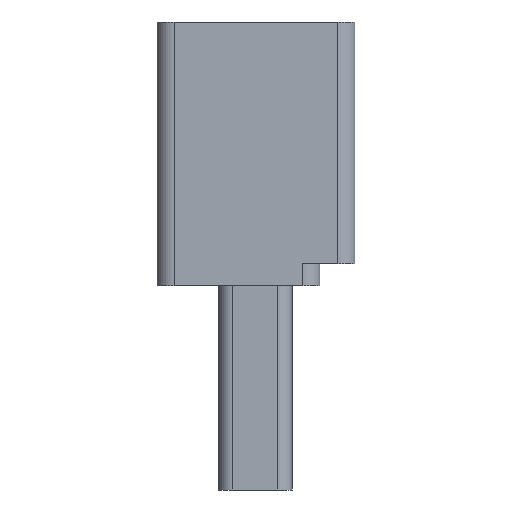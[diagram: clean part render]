
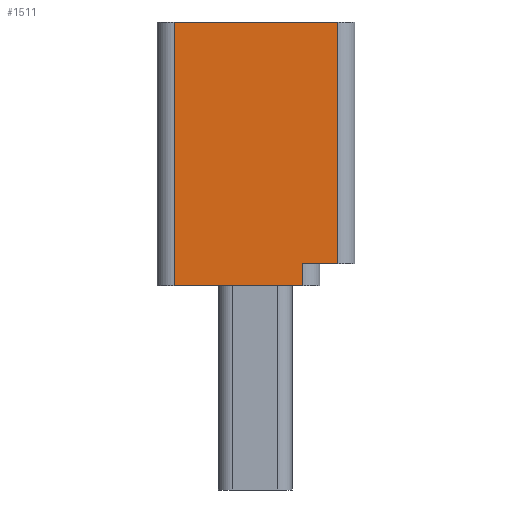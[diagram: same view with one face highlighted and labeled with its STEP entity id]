
A CAD part, left-side view. The second image highlights one B-rep face of the part: STEP entity #1511.
In plain terms, the highlighted planar face has unit normal (-1, 0, 0).
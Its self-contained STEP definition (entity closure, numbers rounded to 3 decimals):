
#1 = CARTESIAN_POINT ( 'NONE',  ( -7.475, -5.6, -1.5 ) ) ;
#142 = VECTOR ( 'NONE', #1923, 1000. ) ;
#191 = LINE ( 'NONE', #2463, #648 ) ;
#215 = CARTESIAN_POINT ( 'NONE',  ( -7.475, 4.6, -1.5 ) ) ;
#331 = CARTESIAN_POINT ( 'NONE',  ( -7.475, -4.4, -3.45 ) ) ;
#365 = CARTESIAN_POINT ( 'NONE',  ( -7.475, -6.85, -1.5 ) ) ;
#370 = EDGE_CURVE ( 'NONE', #2394, #540, #815, .T. ) ;
#388 = ORIENTED_EDGE ( 'NONE', *, *, #579, .T. ) ;
#407 = EDGE_CURVE ( 'NONE', #2394, #819, #1637, .T. ) ;
#483 = ORIENTED_EDGE ( 'NONE', *, *, #2244, .F. ) ;
#540 = VERTEX_POINT ( 'NONE', #1508 ) ;
#569 = DIRECTION ( 'NONE',  ( 0., 0., 1. ) ) ;
#579 = EDGE_CURVE ( 'NONE', #596, #819, #2221, .T. ) ;
#591 = DIRECTION ( 'NONE',  ( -1., 0., 0. ) ) ;
#596 = VERTEX_POINT ( 'NONE', #1183 ) ;
#602 = FACE_OUTER_BOUND ( 'NONE', #1750, .T. ) ;
#618 = DIRECTION ( 'NONE',  ( 0., -1., 0. ) ) ;
#648 = VECTOR ( 'NONE', #618, 1000. ) ;
#790 = ORIENTED_EDGE ( 'NONE', *, *, #1506, .T. ) ;
#815 = LINE ( 'NONE', #215, #1386 ) ;
#817 = DIRECTION ( 'NONE',  ( 0., 0., 1. ) ) ;
#819 = VERTEX_POINT ( 'NONE', #2270 ) ;
#867 = DIRECTION ( 'NONE',  ( 0., -1., 0. ) ) ;
#1053 = VECTOR ( 'NONE', #817, 1000. ) ;
#1090 = CARTESIAN_POINT ( 'NONE',  ( -7.475, -4.4, -1.9 ) ) ;
#1183 = CARTESIAN_POINT ( 'NONE',  ( -7.475, -6.85, -1.9 ) ) ;
#1261 = CARTESIAN_POINT ( 'NONE',  ( -7.475, -5.6, 15. ) ) ;
#1376 = VERTEX_POINT ( 'NONE', #1090 ) ;
#1386 = VECTOR ( 'NONE', #2300, 1000. ) ;
#1433 = ORIENTED_EDGE ( 'NONE', *, *, #370, .T. ) ;
#1451 = PLANE ( 'NONE',  #1477 ) ;
#1477 = AXIS2_PLACEMENT_3D ( 'NONE', #1, #591, #2060 ) ;
#1500 = LINE ( 'NONE', #1718, #142 ) ;
#1506 = EDGE_CURVE ( 'NONE', #2220, #1376, #1831, .T. ) ;
#1508 = CARTESIAN_POINT ( 'NONE',  ( -7.475, 4.6, -3.45 ) ) ;
#1511 = ADVANCED_FACE ( 'NONE', ( #602 ), #1451, .T. ) ;
#1514 = VECTOR ( 'NONE', #569, 1000. ) ;
#1609 = ORIENTED_EDGE ( 'NONE', *, *, #407, .F. ) ;
#1637 = LINE ( 'NONE', #1261, #2120 ) ;
#1718 = CARTESIAN_POINT ( 'NONE',  ( -7.475, -5.6, -3.45 ) ) ;
#1750 = EDGE_LOOP ( 'NONE', ( #483, #790, #2252, #388, #1609, #1433 ) ) ;
#1831 = LINE ( 'NONE', #2450, #1053 ) ;
#1923 = DIRECTION ( 'NONE',  ( 0., 1., 0. ) ) ;
#2060 = DIRECTION ( 'NONE',  ( 0., -1., 0. ) ) ;
#2120 = VECTOR ( 'NONE', #867, 1000. ) ;
#2220 = VERTEX_POINT ( 'NONE', #331 ) ;
#2221 = LINE ( 'NONE', #365, #1514 ) ;
#2244 = EDGE_CURVE ( 'NONE', #2220, #540, #1500, .T. ) ;
#2252 = ORIENTED_EDGE ( 'NONE', *, *, #2572, .T. ) ;
#2270 = CARTESIAN_POINT ( 'NONE',  ( -7.475, -6.85, 15. ) ) ;
#2300 = DIRECTION ( 'NONE',  ( 0., 0., -1. ) ) ;
#2394 = VERTEX_POINT ( 'NONE', #2616 ) ;
#2450 = CARTESIAN_POINT ( 'NONE',  ( -7.475, -4.4, -1.9 ) ) ;
#2463 = CARTESIAN_POINT ( 'NONE',  ( -7.475, -8.05, -1.9 ) ) ;
#2572 = EDGE_CURVE ( 'NONE', #1376, #596, #191, .T. ) ;
#2616 = CARTESIAN_POINT ( 'NONE',  ( -7.475, 4.6, 15. ) ) ;
